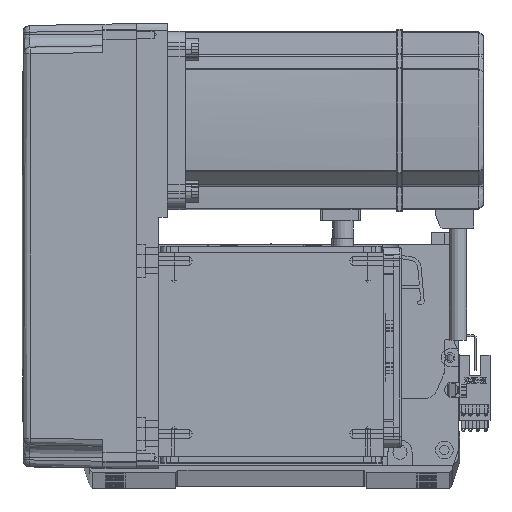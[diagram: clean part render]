
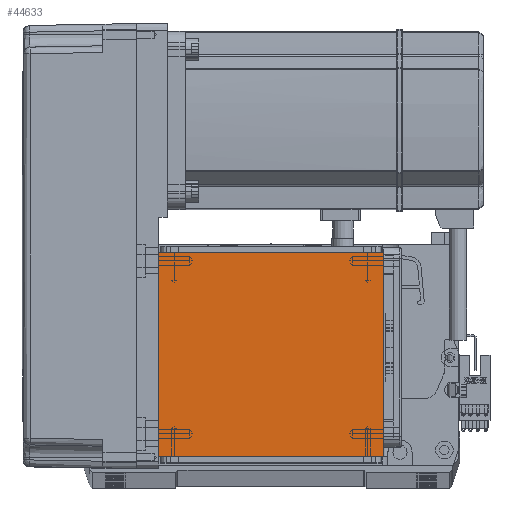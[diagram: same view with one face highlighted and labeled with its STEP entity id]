
A CAD part, top view. The second image highlights one B-rep face of the part: STEP entity #44633.
In plain terms, the highlighted planar face has unit normal (0, 0, 1).
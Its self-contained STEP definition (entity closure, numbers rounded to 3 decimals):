
#858 = EDGE_CURVE ( 'NONE', #55416, #50868, #13016, .T. ) ;
#3069 = DIRECTION ( 'NONE',  ( 0., -1., 0. ) ) ;
#5447 = CARTESIAN_POINT ( 'NONE',  ( 0., 0., 115. ) ) ;
#11701 = VERTEX_POINT ( 'NONE', #31916 ) ;
#13016 = LINE ( 'NONE', #48058, #70040 ) ;
#14655 = CARTESIAN_POINT ( 'NONE',  ( -50.5, 122., 115. ) ) ;
#15244 = VECTOR ( 'NONE', #3069, 1000. ) ;
#16816 = CARTESIAN_POINT ( 'NONE',  ( -70.004, 20., 115. ) ) ;
#17048 = PLANE ( 'NONE',  #33861 ) ;
#17071 = FACE_OUTER_BOUND ( 'NONE', #28001, .T. ) ;
#17843 = VERTEX_POINT ( 'NONE', #54525 ) ;
#19005 = CARTESIAN_POINT ( 'NONE',  ( 50.5, 122., 115. ) ) ;
#24467 = DIRECTION ( 'NONE',  ( 0., 1., 0. ) ) ;
#26299 = LINE ( 'NONE', #14655, #15244 ) ;
#28001 = EDGE_LOOP ( 'NONE', ( #68402, #53937, #66237, #28017 ) ) ;
#28017 = ORIENTED_EDGE ( 'NONE', *, *, #44274, .T. ) ;
#31916 = CARTESIAN_POINT ( 'NONE',  ( -50.5, 20., 115. ) ) ;
#33547 = EDGE_CURVE ( 'NONE', #17843, #11701, #67207, .T. ) ;
#33861 = AXIS2_PLACEMENT_3D ( 'NONE', #5447, #54438, #48994 ) ;
#34188 = VECTOR ( 'NONE', #24467, 1000. ) ;
#37304 = VECTOR ( 'NONE', #43288, 1000. ) ;
#41418 = CARTESIAN_POINT ( 'NONE',  ( -50.5, 111.5, 115. ) ) ;
#42717 = LINE ( 'NONE', #19005, #34188 ) ;
#43288 = DIRECTION ( 'NONE',  ( -1., 0., 0. ) ) ;
#44274 = EDGE_CURVE ( 'NONE', #17843, #50868, #42717, .T. ) ;
#44633 = ADVANCED_FACE ( 'NONE', ( #17071 ), #17048, .T. ) ;
#47462 = CARTESIAN_POINT ( 'NONE',  ( 50.5, 111.5, 115. ) ) ;
#48058 = CARTESIAN_POINT ( 'NONE',  ( -70.004, 111.5, 115. ) ) ;
#48994 = DIRECTION ( 'NONE',  ( 1., 0., 0. ) ) ;
#50868 = VERTEX_POINT ( 'NONE', #47462 ) ;
#53309 = DIRECTION ( 'NONE',  ( 1., 0., 0. ) ) ;
#53937 = ORIENTED_EDGE ( 'NONE', *, *, #61663, .T. ) ;
#54438 = DIRECTION ( 'NONE',  ( 0., 0., 1. ) ) ;
#54525 = CARTESIAN_POINT ( 'NONE',  ( 50.5, 20., 115. ) ) ;
#55416 = VERTEX_POINT ( 'NONE', #41418 ) ;
#61663 = EDGE_CURVE ( 'NONE', #55416, #11701, #26299, .T. ) ;
#66237 = ORIENTED_EDGE ( 'NONE', *, *, #33547, .F. ) ;
#67207 = LINE ( 'NONE', #16816, #37304 ) ;
#68402 = ORIENTED_EDGE ( 'NONE', *, *, #858, .F. ) ;
#70040 = VECTOR ( 'NONE', #53309, 1000. ) ;
